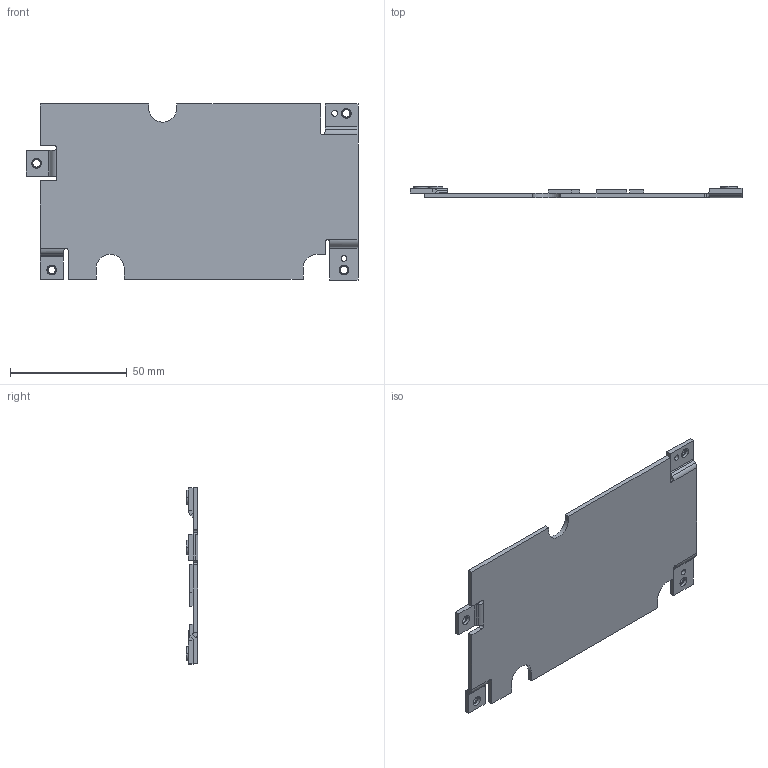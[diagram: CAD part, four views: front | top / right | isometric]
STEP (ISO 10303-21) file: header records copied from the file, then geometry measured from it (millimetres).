
FILE_DESCRIPTION((''),'2;1');
FILE_NAME('HEA_SPREADER_BOTTOM_SOC_ASSY_ASM','2020-08-11T',('G6003023'),(''),'PRO/ENGINEER BY PARAMETRIC TECHNOLOGY CORPORATION, 2013150','PRO/ENGINEER BY PARAMETRIC TECHNOLOGY CORPORATION, 2013150','');
FILE_SCHEMA(('CONFIG_CONTROL_DESIGN'));
Length unit declared in the file: millimetre
Products named in the file (5): HEATSPREADER_SOC_BOTTOM; THERMAL_PAD_SOC_BOTTOM_01-K5; THERMAL_PAD_SOC_BOTTOM_02-K5; SCREW-NUT-THROUGH-D3; HEA_SPREADER_BOTTOM_SOC_ASSY_ASM
Assembly tree (10 placements, depth 2):
  HEA_SPREADER_BOTTOM_SOC_ASSY_ASM
    HEATSPREADER_SOC_BOTTOM
    THERMAL_PAD_SOC_BOTTOM_01-K5
    THERMAL_PAD_SOC_BOTTOM_02-K5  x4
    SCREW-NUT-THROUGH-D3  x4
Bounding box: 142 x 5 x 75.3 mm (x, y, z)
Volume: 20379.6 mm3; surface area: 22431.2 mm2
Topology: 10 solids, 10 shells, 786 faces, 2171 edges, 1418 vertices
Faces by surface type: plane 517, cylinder 240, cone 24, bspline 5
Entity records: 10024 total; most frequent: CARTESIAN_POINT 1940, ORIENTED_EDGE 1660, DIRECTION 1650, EDGE_CURVE 830, VECTOR 640, LINE 640, VERTEX_POINT 530, AXIS2_PLACEMENT_3D 505
